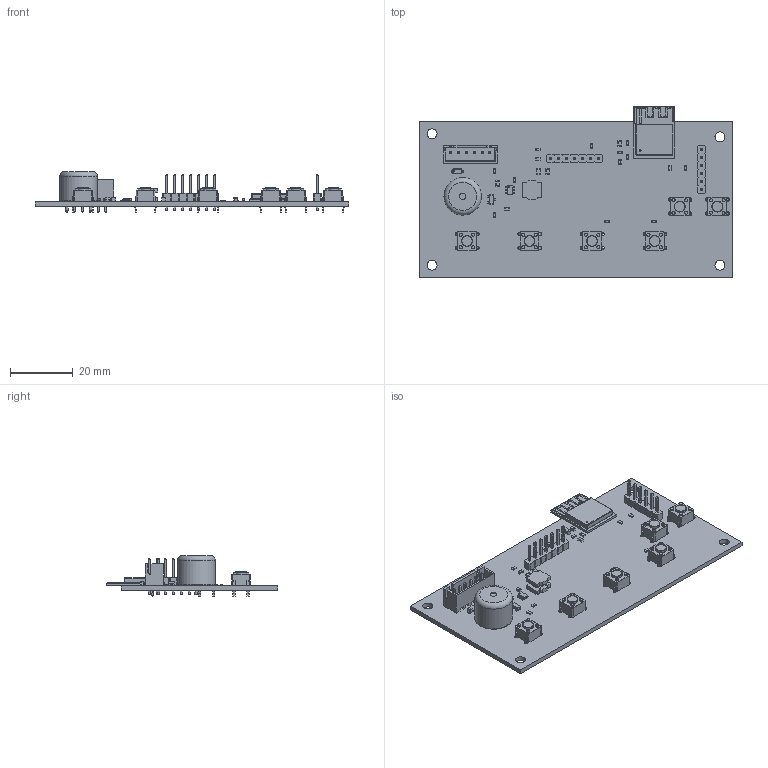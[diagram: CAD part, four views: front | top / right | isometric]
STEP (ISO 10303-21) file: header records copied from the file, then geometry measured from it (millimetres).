
FILE_DESCRIPTION(('KiCad electronic assembly'),'2;1');
FILE_NAME('COFFEE-CTRL-A01-UI.step','2026-10-04T14:47:27',('Pcbnew'),( 'Kicad'),'Open CASCADE STEP processor 7.9','KiCad to STEP converter' ,'Unknown');
FILE_SCHEMA(('AUTOMOTIVE_DESIGN { 1 0 10303 214 1 1 1 1 }'));
Length unit declared in the file: millimetre
Products named in the file (91): COFFEE-CTRL-A01-UI 1; SW_PUSH_6mm; L_Bourns_SRN6045TA; C_0805_2012Metric; TSOT-23-6; SOT-23; R_0603_1608Metric; C_0603_1608Metric; Buzzer_12x9.5RM7.6; Buzzer_12x95RM76; ESP32-C3-MINI-1; PCB_ESP32-C3-MINI-1; PCB_ESP32-C3-MINI-1_V1A(2)^PCB_ESP32-C3-MINI-1_V1A; DesignRootModel(2)^PCB_ESP32-C3-MINI-1_V1A(2)_PCB_ESP32-C3-MINI-1_V1A; Submodel-SOD882_part(2)^DesignRootModel(2)_PCB_ESP32-C3-MINI-1_V1A(2)_
PCB_ESP32-C3-MINI-1_V1A; DFN1006.STEP(2)^Submodel-SOD882_part(2)_DesignRootModel(2)_PCB_
ESP32-C3-MINI-1_V1A(2)_PCB_ESP32-C3-MINI-1_V1A; DFN1006.STEP(2)^DFN1006.STEP(2)_Submodel-SOD882_part(2)_
DesignRootModel(2)_PCB_ESP32-C3-MINI-1_V1A(2)_PCB_ESP32-C3-MINI-1_V1A; Submodel-R0201_part(2)^DesignRootModel(2)_PCB_ESP32-C3-MINI-1_V1A(2)_
PCB_ESP32-C3-MINI-1_V1A; R0201_20210301.STEP(2)^Submodel-R0201_part(2)_DesignRootModel(2)_PCB_
ESP32-C3-MINI-1_V1A(2)_PCB_ESP32-C3-MINI-1_V1A; R0201_20210301.STEP(2)^R0201_20210301.STEP(2)_Submodel-R0201_part(2)_
DesignRootModel(2)_PCB_ESP32-C3-MINI-1_V1A(2)_PCB_ESP32-C3-MINI-1_V1A; Submodel-MINI-ANT-TYPED-H_1968823293_part(2)^DesignRootModel(2)_PCB_
ESP32-C3-MINI-1_V1A(2)_PCB_ESP32-C3-MINI-1_V1A; Submodel-noModelForPart_MINI-ANT-TYPED-H_
1968823293(2)^Submodel-MINI-ANT-TYPED-H_1968823293_part(2)_
DesignRootModel(2)_PCB_ESP32-C3-MINI-1_V1A(2)_PCB_ESP32-C3-MINI-1_V1A; placementOutline(2)^Submodel-noModelForPart_MINI-ANT-TYPED-H_
1968823293(2)_Submodel-MINI-ANT-TYPED-H_1968823293_part(2)_
DesignRootModel(2)_PCB_ESP32-C3-MINI-1_V1A(2)_PCB_ESP32-C3-MINI-1_V~; placementOutline-0(2)^Submodel-noModelForPart_MINI-ANT-TYPED-H_
1968823293(2)_Submodel-MINI-ANT-TYPED-H_1968823293_part(2)_
DesignRootModel(2)_PCB_ESP32-C3-MINI-1_V1A(2)_PCB_ESP32-C3-MINI-1~; placementOutline-1(2)^Submodel-noModelForPart_MINI-ANT-TYPED-H_
1968823293(2)_Submodel-MINI-ANT-TYPED-H_1968823293_part(2)_
DesignRootModel(2)_PCB_ESP32-C3-MINI-1_V1A(2)_PCB_ESP32-C3-MINI-1~; placementOutline-2(2)^Submodel-noModelForPart_MINI-ANT-TYPED-H_
1968823293(2)_Submodel-MINI-ANT-TYPED-H_1968823293_part(2)_
DesignRootModel(2)_PCB_ESP32-C3-MINI-1_V1A(2)_PCB_ESP32-C3-MINI-1~; placementOutline-3(2)^Submodel-noModelForPart_MINI-ANT-TYPED-H_
1968823293(2)_Submodel-MINI-ANT-TYPED-H_1968823293_part(2)_
DesignRootModel(2)_PCB_ESP32-C3-MINI-1_V1A(2)_PCB_ESP32-C3-MINI-1~; placementOutline-4(2)^Submodel-noModelForPart_MINI-ANT-TYPED-H_
1968823293(2)_Submodel-MINI-ANT-TYPED-H_1968823293_part(2)_
DesignRootModel(2)_PCB_ESP32-C3-MINI-1_V1A(2)_PCB_ESP32-C3-MINI-1~; placementOutline-5(2)^Submodel-noModelForPart_MINI-ANT-TYPED-H_
1968823293(2)_Submodel-MINI-ANT-TYPED-H_1968823293_part(2)_
DesignRootModel(2)_PCB_ESP32-C3-MINI-1_V1A(2)_PCB_ESP32-C3-MINI-1~; trace_4(2)^Submodel-MINI-ANT-TYPED-H_1968823293_part(2)_
DesignRootModel(2)_PCB_ESP32-C3-MINI-1_V1A(2)_PCB_ESP32-C3-MINI-1_V1A; trace_1(2)^Submodel-MINI-ANT-TYPED-H_1968823293_part(2)_
DesignRootModel(2)_PCB_ESP32-C3-MINI-1_V1A(2)_PCB_ESP32-C3-MINI-1_V1A; Submodel-C0402_part(2)^DesignRootModel(2)_PCB_ESP32-C3-MINI-1_V1A(2)_
PCB_ESP32-C3-MINI-1_V1A; C0402_20210301.STEP(2)^Submodel-C0402_part(2)_DesignRootModel(2)_PCB_
ESP32-C3-MINI-1_V1A(2)_PCB_ESP32-C3-MINI-1_V1A; C0402_20210301.STEP(2)^C0402_20210301.STEP(2)_Submodel-C0402_part(2)_
DesignRootModel(2)_PCB_ESP32-C3-MINI-1_V1A(2)_PCB_ESP32-C3-MINI-1_V1A; Submodel-C0201_part(2)^DesignRootModel(2)_PCB_ESP32-C3-MINI-1_V1A(2)_
PCB_ESP32-C3-MINI-1_V1A; C0201_20210301.STEP(2)^Submodel-C0201_part(2)_DesignRootModel(2)_PCB_
ESP32-C3-MINI-1_V1A(2)_PCB_ESP32-C3-MINI-1_V1A; C0201_20210301.STEP(2)^C0201_20210301.STEP(2)_Submodel-C0201_part(2)_
DesignRootModel(2)_PCB_ESP32-C3-MINI-1_V1A(2)_PCB_ESP32-C3-MINI-1_V1A; Submodel-L0201_part(2)^DesignRootModel(2)_PCB_ESP32-C3-MINI-1_V1A(2)_
PCB_ESP32-C3-MINI-1_V1A; L0201_20210301.STEP(2)^Submodel-L0201_part(2)_DesignRootModel(2)_PCB_
ESP32-C3-MINI-1_V1A(2)_PCB_ESP32-C3-MINI-1_V1A; L0201_20210301.STEP(2)^L0201_20210301.STEP(2)_Submodel-L0201_part(2)_
DesignRootModel(2)_PCB_ESP32-C3-MINI-1_V1A(2)_PCB_ESP32-C3-MINI-1_V1A ...
Assembly tree (124 placements, depth 8):
  COFFEE-CTRL-A01-UI 1
    SW_PUSH_6mm  x6
      SW_PUSH_6mm
    L_Bourns_SRN6045TA
      L_Bourns_SRN6045TA
    C_0805_2012Metric  x4
      C_0805_2012Metric
    TSOT-23-6
      TSOT-23-6
    SOT-23
      SOT-23
    R_0603_1608Metric  x10
      R_0603_1608Metric
    C_0603_1608Metric  x5
      C_0603_1608Metric
    Buzzer_12x9.5RM7.6
      Buzzer_12x95RM76
    ESP32-C3-MINI-1
      PCB_ESP32-C3-MINI-1
        PCB_ESP32-C3-MINI-1_V1A(2)^PCB_ESP32-C3-MINI-1_V1A
          DesignRootModel(2)^PCB_ESP32-C3-MINI-1_V1A(2)_PCB_ESP32-C3-MINI-1_V1A
            Submodel-SOD882_part(2)^DesignRootModel(2)_PCB_ESP32-C3-MINI-1_V1A(2)_
PCB_ESP32-C3-MINI-1_V1A
              DFN1006.STEP(2)^Submodel-SOD882_part(2)_DesignRootModel(2)_PCB_
ESP32-C3-MINI-1_V1A(2)_PCB_ESP32-C3-MINI-1_V1A
                DFN1006.STEP(2)^DFN1006.STEP(2)_Submodel-SOD882_part(2)_
DesignRootModel(2)_PCB_ESP32-C3-MINI-1_V1A(2)_PCB_ESP32-C3-MINI-1_V1A
            Submodel-R0201_part(2)^DesignRootModel(2)_PCB_ESP32-C3-MINI-1_V1A(2)_
PCB_ESP32-C3-MINI-1_V1A
              R0201_20210301.STEP(2)^Submodel-R0201_part(2)_DesignRootModel(2)_PCB_
ESP32-C3-MINI-1_V1A(2)_PCB_ESP32-C3-MINI-1_V1A
                R0201_20210301.STEP(2)^R0201_20210301.STEP(2)_Submodel-R0201_part(2)_
DesignRootModel(2)_PCB_ESP32-C3-MINI-1_V1A(2)_PCB_ESP32-C3-MINI-1_V1A
            Submodel-MINI-ANT-TYPED-H_1968823293_part(2)^DesignRootModel(2)_PCB_
ESP32-C3-MINI-1_V1A(2)_PCB_ESP32-C3-MINI-1_V1A
              Submodel-noModelForPart_MINI-ANT-TYPED-H_
1968823293(2)^Submodel-MINI-ANT-TYPED-H_1968823293_part(2)_
DesignRootModel(2)_PCB_ESP32-C3-MINI-1_V1A(2)_PCB_ESP32-C3-MINI-1_V1A
                placementOutline(2)^Submodel-noModelForPart_MINI-ANT-TYPED-H_
1968823293(2)_Submodel-MINI-ANT-TYPED-H_1968823293_part(2)_
DesignRootModel(2)_PCB_ESP32-C3-MINI-1_V1A(2)_PCB_ESP32-C3-MINI-1_V~
                placementOutline-0(2)^Submodel-noModelForPart_MINI-ANT-TYPED-H_
1968823293(2)_Submodel-MINI-ANT-TYPED-H_1968823293_part(2)_
DesignRootModel(2)_PCB_ESP32-C3-MINI-1_V1A(2)_PCB_ESP32-C3-MINI-1~
                placementOutline-1(2)^Submodel-noModelForPart_MINI-ANT-TYPED-H_
1968823293(2)_Submodel-MINI-ANT-TYPED-H_1968823293_part(2)_
DesignRootModel(2)_PCB_ESP32-C3-MINI-1_V1A(2)_PCB_ESP32-C3-MINI-1~
                placementOutline-2(2)^Submodel-noModelForPart_MINI-ANT-TYPED-H_
1968823293(2)_Submodel-MINI-ANT-TYPED-H_1968823293_part(2)_
DesignRootModel(2)_PCB_ESP32-C3-MINI-1_V1A(2)_PCB_ESP32-C3-MINI-1~
                placementOutline-3(2)^Submodel-noModelForPart_MINI-ANT-TYPED-H_
1968823293(2)_Submodel-MINI-ANT-TYPED-H_1968823293_part(2)_
DesignRootModel(2)_PCB_ESP32-C3-MINI-1_V1A(2)_PCB_ESP32-C3-MINI-1~
                placementOutline-4(2)^Submodel-noModelForPart_MINI-ANT-TYPED-H_
1968823293(2)_Submodel-MINI-ANT-TYPED-H_1968823293_part(2)_
DesignRootModel(2)_PCB_ESP32-C3-MINI-1_V1A(2)_PCB_ESP32-C3-MINI-1~
                placementOutline-5(2)^Submodel-noModelForPart_MINI-ANT-TYPED-H_
1968823293(2)_Submodel-MINI-ANT-TYPED-H_1968823293_part(2)_
DesignRootModel(2)_PCB_ESP32-C3-MINI-1_V1A(2)_PCB_ESP32-C3-MINI-1~
              trace_4(2)^Submodel-MINI-ANT-TYPED-H_1968823293_part(2)_
DesignRootModel(2)_PCB_ESP32-C3-MINI-1_V1A(2)_PCB_ESP32-C3-MINI-1_V1A
              trace_1(2)^Submodel-MINI-ANT-TYPED-H_1968823293_part(2)_
DesignRootModel(2)_PCB_ESP32-C3-MINI-1_V1A(2)_PCB_ESP32-C3-MINI-1_V1A
            Submodel-C0402_part(2)^DesignRootModel(2)_PCB_ESP32-C3-MINI-1_V1A(2)_
PCB_ESP32-C3-MINI-1_V1A
              C0402_20210301.STEP(2)^Submodel-C0402_part(2)_DesignRootModel(2)_PCB_
ESP32-C3-MINI-1_V1A(2)_PCB_ESP32-C3-MINI-1_V1A
                C0402_20210301.STEP(2)^C0402_20210301.STEP(2)_Submodel-C0402_part(2)_
DesignRootModel(2)_PCB_ESP32-C3-MINI-1_V1A(2)_PCB_ESP32-C3-MINI-1_V1A
            Submodel-R0201_part(2)^DesignRootModel(2)_PCB_ESP32-C3-MINI-1_V1A(2)_
PCB_ESP32-C3-MINI-1_V1A
              R0201_20210301.STEP(2)^Submodel-R0201_part(2)_DesignRootModel(2)_PCB_
ESP32-C3-MINI-1_V1A(2)_PCB_ESP32-C3-MINI-1_V1A
                R0201_20210301.STEP(2)^R0201_20210301.STEP(2)_Submodel-R0201_part(2)_
DesignRootModel(2)_PCB_ESP32-C3-MINI-1_V1A(2)_PCB_ESP32-C3-MINI-1_V1A
            Submodel-C0201_part(2)^DesignRootModel(2)_PCB_ESP32-C3-MINI-1_V1A(2)_
PCB_ESP32-C3-MINI-1_V1A
              C0201_20210301.STEP(2)^Submodel-C0201_part(2)_DesignRootModel(2)_PCB_
ESP32-C3-MINI-1_V1A(2)_PCB_ESP32-C3-MINI-1_V1A
                C0201_20210301.STEP(2)^C0201_20210301.STEP(2)_Submodel-C0201_part(2)_
DesignRootModel(2)_PCB_ESP32-C3-MINI-1_V1A(2)_PCB_ESP32-C3-MINI-1_V1A
            Submodel-R0201_part(2)^DesignRootModel(2)_PCB_ESP32-C3-MINI-1_V1A(2)_
PCB_ESP32-C3-MINI-1_V1A
              R0201_20210301.STEP(2)^Submodel-R0201_part(2)_DesignRootModel(2)_PCB_
ESP32-C3-MINI-1_V1A(2)_PCB_ESP32-C3-MINI-1_V1A
                R0201_20210301.STEP(2)^R0201_20210301.STEP(2)_Submodel-R0201_part(2)_
DesignRootModel(2)_PCB_ESP32-C3-MINI-1_V1A(2)_PCB_ESP32-C3-MINI-1_V1A
            Submodel-C0201_part(2)^DesignRootModel(2)_PCB_ESP32-C3-MINI-1_V1A(2)_
PCB_ESP32-C3-MINI-1_V1A
              C0201_20210301.STEP(2)^Submodel-C0201_part(2)_DesignRootModel(2)_PCB_
ESP32-C3-MINI-1_V1A(2)_PCB_ESP32-C3-MINI-1_V1A
                C0201_20210301.STEP(2)^C0201_20210301.STEP(2)_Submodel-C0201_part(2)_
DesignRootModel(2)_PCB_ESP32-C3-MINI-1_V1A(2)_PCB_ESP32-C3-MINI-1_V1A
            Submodel-C0201_part(2)^DesignRootModel(2)_PCB_ESP32-C3-MINI-1_V1A(2)_
PCB_ESP32-C3-MINI-1_V1A
              C0201_20210301.STEP(2)^Submodel-C0201_part(2)_DesignRootModel(2)_PCB_
ESP32-C3-MINI-1_V1A(2)_PCB_ESP32-C3-MINI-1_V1A
                C0201_20210301.STEP(2)^C0201_20210301.STEP(2)_Submodel-C0201_part(2)_
DesignRootModel(2)_PCB_ESP32-C3-MINI-1_V1A(2)_PCB_ESP32-C3-MINI-1_V1A
            Submodel-C0201_part(2)^DesignRootModel(2)_PCB_ESP32-C3-MINI-1_V1A(2)_
PCB_ESP32-C3-MINI-1_V1A
              C0201_20210301.STEP(2)^Submodel-C0201_part(2)_DesignRootModel(2)_PCB_
ESP32-C3-MINI-1_V1A(2)_PCB_ESP32-C3-MINI-1_V1A
                C0201_20210301.STEP(2)^C0201_20210301.STEP(2)_Submodel-C0201_part(2)_
DesignRootModel(2)_PCB_ESP32-C3-MINI-1_V1A(2)_PCB_ESP32-C3-MINI-1_V1A
            Submodel-C0201_part(2)^DesignRootModel(2)_PCB_ESP32-C3-MINI-1_V1A(2)_
PCB_ESP32-C3-MINI-1_V1A
Bounding box: 100 x 54.8 x 13.03 mm (x, y, z)
Volume: 10293.2 mm3; surface area: 15433.6 mm2
Topology: 137 solids, 138 shells, 3851 faces, 9660 edges, 6118 vertices
Faces by surface type: plane 2606, cylinder 1014, sphere 112, bspline 102, torus 15, cone 2
Full cylindrical faces by diameter (mm): 0.9 x2, 0.95 x6, 1 x39, 1.1 x24, 2 x1, 3.2 x4, 3.5 x6, 12 x1
Entity records: 82470 total; most frequent: CARTESIAN_POINT 16229, ORIENTED_EDGE 11646, DIRECTION 11270, EDGE_CURVE 5823, LINE 4734, VECTOR 4734, VERTEX_POINT 3763, AXIS2_PLACEMENT_3D 3268
